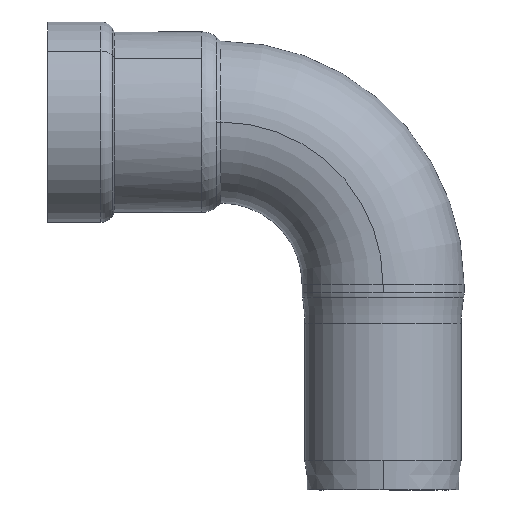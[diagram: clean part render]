
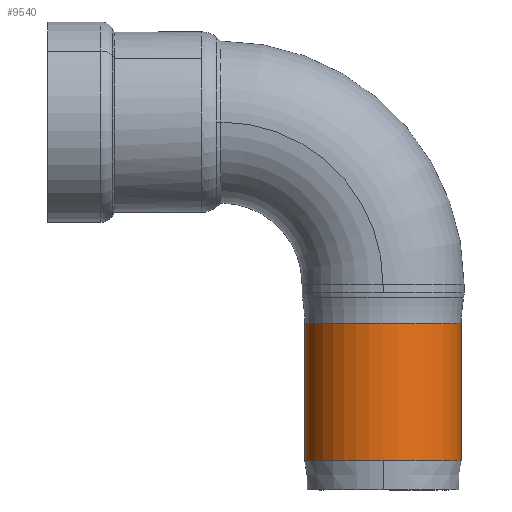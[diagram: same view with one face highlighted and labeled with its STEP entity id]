
A CAD part, front view. The second image highlights one B-rep face of the part: STEP entity #9540.
In plain terms, the highlighted cylindrical face has radius 24.15 mm (diameter 48.3 mm), a partial arc.
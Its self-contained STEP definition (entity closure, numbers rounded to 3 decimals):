
#8050=CARTESIAN_POINT('',(-40.181,6.82,
61.899));
#8060=VERTEX_POINT('',#8050);
#8300=CARTESIAN_POINT('',(-40.181,23.896,
44.822));
#8310=DIRECTION('',(0.,0.707,
0.707));
#8320=DIRECTION('',(1.,0.,0.));
#8330=AXIS2_PLACEMENT_3D('',#8300,#8310,#8320);
#8340=CIRCLE('',#8330,24.15);
#8350=CARTESIAN_POINT('',(-16.031,23.896,
44.822));
#8360=VERTEX_POINT('',#8350);
#8390=EDGE_CURVE('',#8060,#8360,#8340,.T.);
#9190=CARTESIAN_POINT('',(-40.181,12.687,
33.612));
#9200=DIRECTION('',(0.,0.707,0.707));
#9210=DIRECTION('',(1.,0.,0.));
#9220=AXIS2_PLACEMENT_3D('',#9190,#9200,#9210);
#9230=CYLINDRICAL_SURFACE('',#9220,24.15);
#9240=CARTESIAN_POINT('',(-64.331,12.687,
33.612));
#9250=DIRECTION('',(0.,0.707,0.707));
#9260=VECTOR('',#9250,1.);
#9270=LINE('',#9240,#9260);
#9280=CARTESIAN_POINT('',(-64.331,-6.101,
14.825));
#9290=VERTEX_POINT('',#9280);
#9300=CARTESIAN_POINT('',(-64.331,23.896,
44.822));
#9310=VERTEX_POINT('',#9300);
#9320=EDGE_CURVE('',#9290,#9310,#9270,.T.);
#9330=ORIENTED_EDGE('',*,*,#9320,.F.);
#9340=EDGE_CURVE('',#9310,#8060,#8340,.T.);
#9350=ORIENTED_EDGE('',*,*,#9340,.F.);
#9360=ORIENTED_EDGE('',*,*,#8390,.F.);
#9370=CARTESIAN_POINT('',(-16.031,12.687,
33.612));
#9380=DIRECTION('',(0.,0.707,0.707));
#9390=VECTOR('',#9380,1.);
#9400=LINE('',#9370,#9390);
#9410=CARTESIAN_POINT('',(-16.031,-6.101,
14.825));
#9420=VERTEX_POINT('',#9410);
#9430=EDGE_CURVE('',#9420,#8360,#9400,.T.);
#9440=ORIENTED_EDGE('',*,*,#9430,.T.);
#9450=CARTESIAN_POINT('',(-40.181,-6.101,
14.825));
#9460=DIRECTION('',(0.,0.707,0.707));
#9470=DIRECTION('',(-1.,0.,0.));
#9480=AXIS2_PLACEMENT_3D('',#9450,#9460,#9470);
#9490=CIRCLE('',#9480,24.15);
#9500=EDGE_CURVE('',#9290,#9420,#9490,.T.);
#9510=ORIENTED_EDGE('',*,*,#9500,.T.);
#9520=EDGE_LOOP('',(#9510,#9440,#9360,#9350,#9330));
#9530=FACE_OUTER_BOUND('',#9520,.T.);
#9540=ADVANCED_FACE('',(#9530),#9230,.T.);
